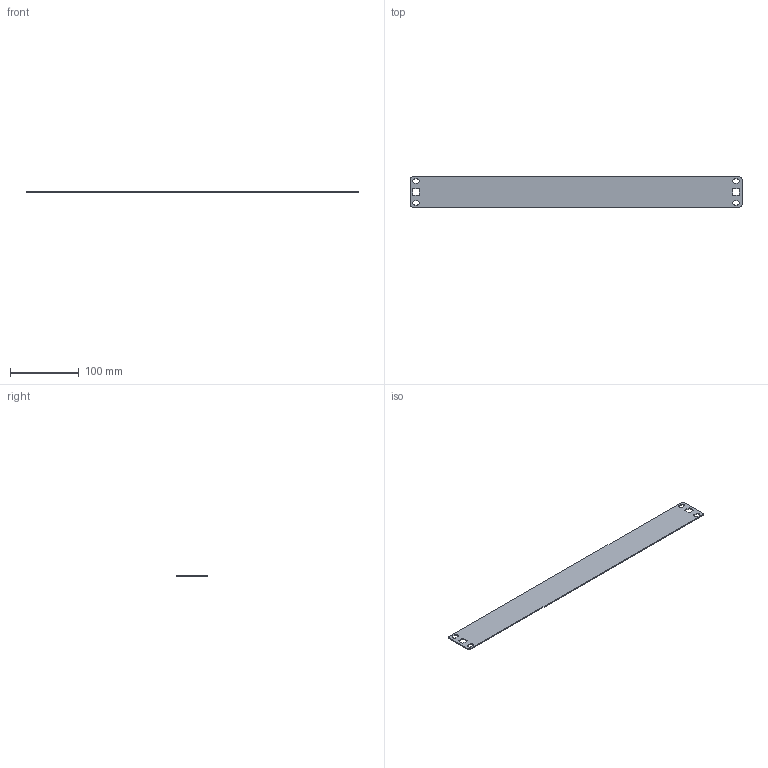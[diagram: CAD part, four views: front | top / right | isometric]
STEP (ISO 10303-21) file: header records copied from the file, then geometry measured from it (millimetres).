
FILE_DESCRIPTION (( 'STEP AP203' ), '1' );
FILE_NAME ('1901-1-101-01.STEP', '2019-12-12T17:42:06', ( '' ), ( '' ), 'SwSTEP 2.0', 'SolidWorks 2019', '' );
FILE_SCHEMA (( 'CONFIG_CONTROL_DESIGN' ));
Length unit declared in the file: inch
Products named in the file (1): 1901-1-101-01
Bounding box: 482.6 x 43.69 x 1.52 mm (x, y, z)
Volume: 31550.6 mm3; surface area: 43272 mm2
Topology: 1 solids, 1 shells, 34 faces, 96 edges, 64 vertices
Faces by surface type: plane 22, cylinder 12
Entity records: 1207 total; most frequent: CARTESIAN_POINT 195, ORIENTED_EDGE 192, DIRECTION 190, EDGE_CURVE 96, LINE 72, VECTOR 72, VERTEX_POINT 64, AXIS2_PLACEMENT_3D 59
